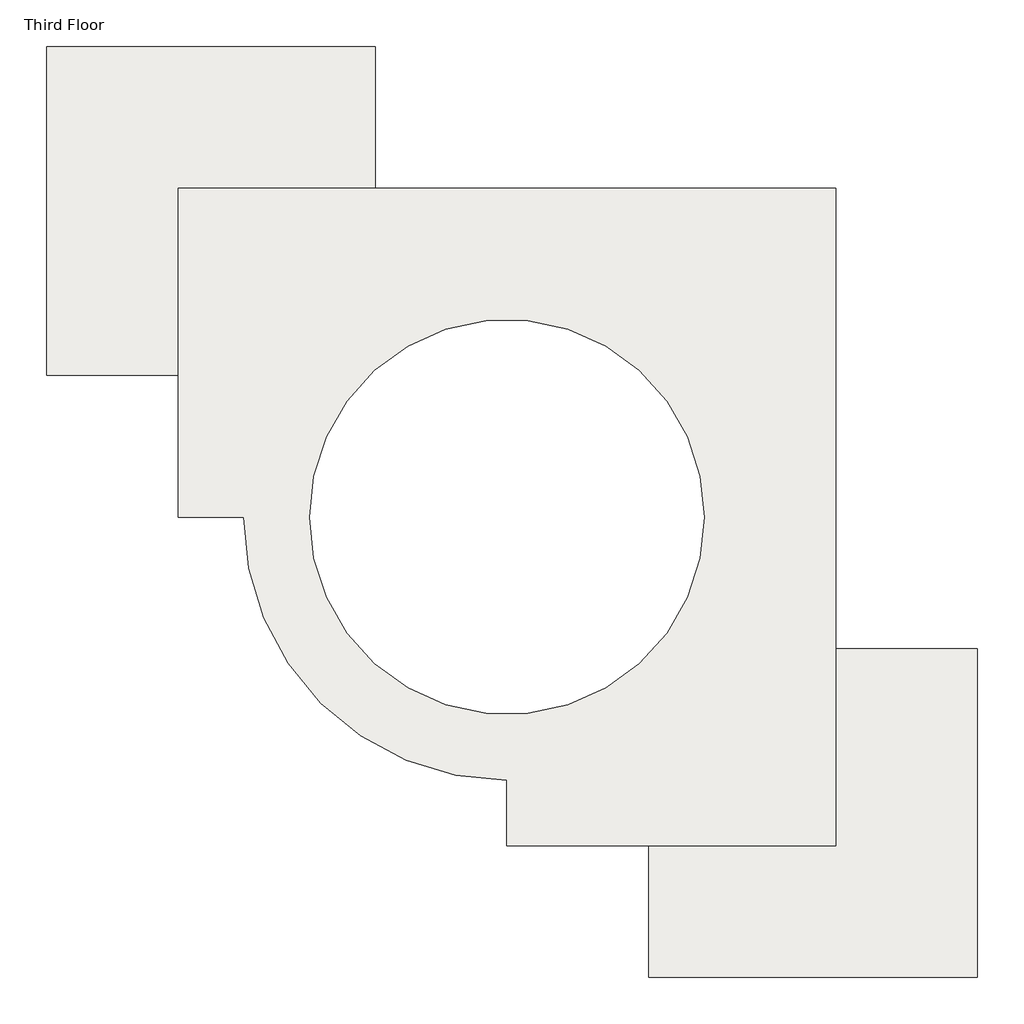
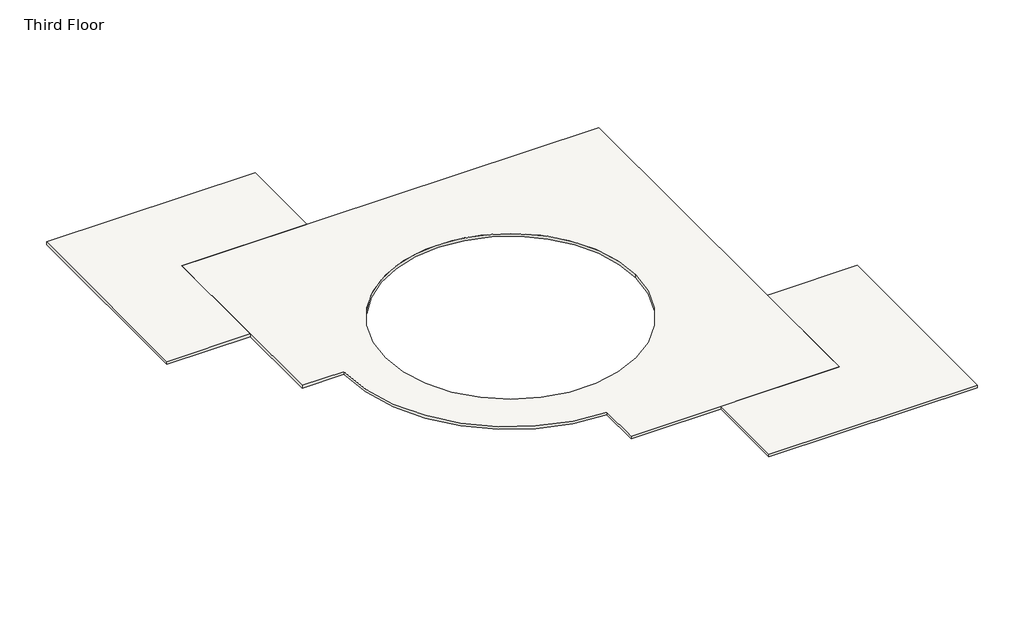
# One storey: 2 slabs.
"""IFC4 building model written with IfcOpenShell, lengths in millimetres."""

from ifc_helpers import new_model, si_unit, point, frame, frame_2d, origin, place, context, project, spatial, polyline, circle_curve, trimmed, segment, composite_curve, outline, extrude, element, save

model = new_model("IFC4")

# Units and contexts
model_context = context("Model", 3, world=origin())
ifc_project = project(units=[si_unit("LENGTHUNIT", "METRE", prefix="MILLI")], contexts=[model_context])

# Site, building, storey
site = spatial("IfcSite", under=ifc_project)
building = spatial("IfcBuilding", under=site)
storey = spatial("IfcBuildingStorey", under=building, Name="Third Floor", Elevation=6096.0)

# Slabs
placement = place(None, origin())
element("IfcSlab", 1, ObjectType="LW Concrete on Metal Deck", at=placement, inside=storey, context=model_context, shape_type="SweptSolid", body=[
    extrude(outline(composite_curve([segment(polyline([(4920.7859619, 5010.3465511), (4920.7859619, -10229.6534489), (-2699.2140381, -10229.6534489), (-2699.2140381, -8705.6534489)]), True, "CONTINUOUS"), segment(trimmed(circle_curve(frame_2d((-2699.2140381, -2609.6534489)), 6096.0), [point((-2699.2140381, -8705.6534489))], [point((-8795.2140381, -2609.6534489))], False, "CARTESIAN"), True, "CONTINUOUS"), segment(polyline([(-8795.2140381, -2609.6534489), (-10319.2140381, -2609.6534489), (-10319.2140381, 5010.3465511), (4920.7859619, 5010.3465511)]), True, "CONTINUOUS")], self_intersect=False), holes=[composite_curve([segment(trimmed(circle_curve(frame_2d((-2699.2140381, -2609.6534489)), 4572.0), [point((1872.7859619, -2609.6534489))], [point((-7271.2140381, -2609.6534489))], True, "CARTESIAN"), True, "CONTINUOUS"), segment(trimmed(circle_curve(frame_2d((-2699.2140381, -2609.6534489)), 4572.0), [point((-7271.2140381, -2609.6534489))], [point((1872.7859619, -2609.6534489))], True, "CARTESIAN"), True, "CONTINUOUS")], self_intersect=False)]), frame((0.0, 0.0, 5991.225), z_axis=(0.0, 0.0, 1.0), x_axis=(1.0, 0.0, 0.0)), (0.0, 0.0, 1.0), 104.775),
])
element("IfcSlab", 2, ObjectType="LW Concrete on Metal Deck", at=placement, inside=storey, context=model_context, shape_type="SweptSolid", body=[
    extrude(outline(polyline([(-13367.2140381, 672.984638), (-13367.2140381, 8292.984638), (-5747.2140381, 8292.984638), (-5747.2140381, 5244.984638), (-5747.2140381, 5010.3465511), (-10319.2140381, 5010.3465511), (-10319.2140381, 672.984638), (-13367.2140381, 672.984638)])), frame((0.0, 0.0, 5991.225), z_axis=(0.0, 0.0, 1.0), x_axis=(1.0, 0.0, 0.0)), (0.0, 0.0, 1.0), 104.775),
    extrude(outline(polyline([(583.4240488, -13277.6534489), (583.4240488, -10229.6534489), (4920.7859619, -10229.6534489), (4920.7859619, -5657.6534489), (5155.4240488, -5657.6534489), (8203.4240488, -5657.6534489), (8203.4240488, -13277.6534489), (583.4240488, -13277.6534489)])), frame((0.0, 0.0, 5991.225), z_axis=(0.0, 0.0, 1.0), x_axis=(1.0, 0.0, 0.0)), (0.0, 0.0, 1.0), 104.775),
])

save(model, "model.ifc")
